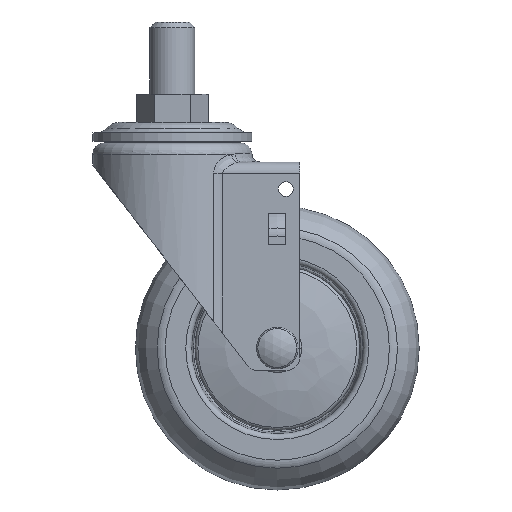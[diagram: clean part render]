
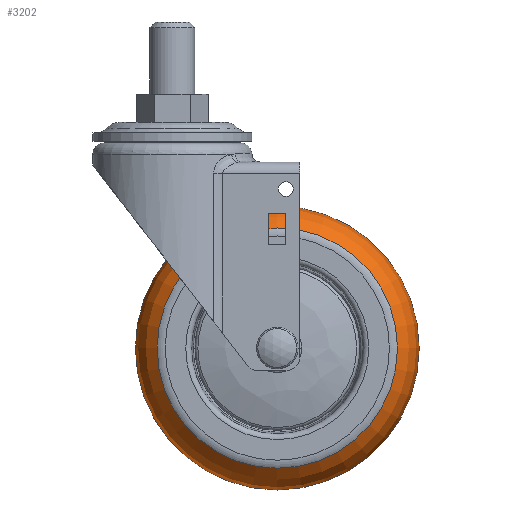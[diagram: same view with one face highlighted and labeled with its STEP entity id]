
A CAD part, front view. The second image highlights one B-rep face of the part: STEP entity #3202.
In plain terms, the highlighted toroidal (fillet/blend) face has major radius 32.404 mm and minor radius 17.6 mm.
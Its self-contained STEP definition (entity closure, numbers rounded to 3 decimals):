
#310=TOROIDAL_SURFACE('',#3541,32.405,17.6);
#525=FACE_BOUND('',#1027,.T.);
#704=FACE_OUTER_BOUND('',#1026,.T.);
#1026=EDGE_LOOP('',(#2435));
#1027=EDGE_LOOP('',(#2436));
#1321=CIRCLE('',#3423,50.);
#1384=CIRCLE('',#3540,42.343);
#1550=VERTEX_POINT('',#5023);
#1613=VERTEX_POINT('',#5293);
#1870=EDGE_CURVE('',#1550,#1550,#1321,.T.);
#1936=EDGE_CURVE('',#1613,#1613,#1384,.T.);
#2435=ORIENTED_EDGE('',*,*,#1936,.T.);
#2436=ORIENTED_EDGE('',*,*,#1870,.F.);
#3202=ADVANCED_FACE('',(#704,#525),#310,.T.);
#3423=AXIS2_PLACEMENT_3D('',#5024,#3937,#3938);
#3540=AXIS2_PLACEMENT_3D('',#5294,#4171,#4172);
#3541=AXIS2_PLACEMENT_3D('',#5295,#4173,#4174);
#3937=DIRECTION('center_axis',(0.,1.,0.));
#3938=DIRECTION('ref_axis',(1.,0.,0.));
#4171=DIRECTION('center_axis',(0.,1.,0.));
#4172=DIRECTION('ref_axis',(1.,0.,0.));
#4173=DIRECTION('center_axis',(0.,1.,0.));
#4174=DIRECTION('ref_axis',(0.,0.,1.));
#5023=CARTESIAN_POINT('',(28.5,0.,25.1));
#5024=CARTESIAN_POINT('Origin',(28.5,0.,-24.9));
#5293=CARTESIAN_POINT('',(28.5,-14.127,17.443));
#5294=CARTESIAN_POINT('Origin',(28.5,-14.127,-24.9));
#5295=CARTESIAN_POINT('Origin',(28.5,0.399,-24.9));
